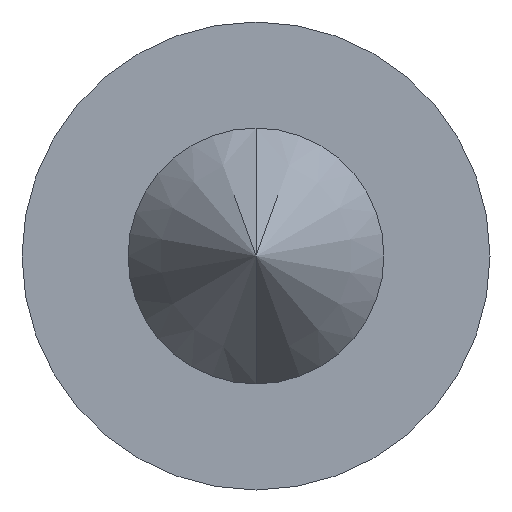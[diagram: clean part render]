
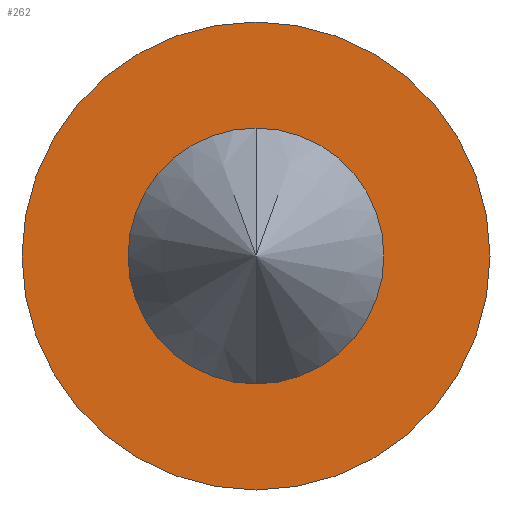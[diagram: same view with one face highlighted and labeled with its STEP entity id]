
A CAD part, front view. The second image highlights one B-rep face of the part: STEP entity #262.
In plain terms, the highlighted planar face has unit normal (0, -1, 0).
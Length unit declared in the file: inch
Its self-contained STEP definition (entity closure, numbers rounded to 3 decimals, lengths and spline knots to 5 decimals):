
#1 = VERTEX_POINT ( 'NONE', #88 ) ;
#2 = AXIS2_PLACEMENT_3D ( 'NONE', #331, #295, #24 ) ;
#7 = ORIENTED_EDGE ( 'NONE', *, *, #306, .T. ) ;
#9 = CARTESIAN_POINT ( 'NONE',  ( 0., -0.25084, 0. ) ) ;
#24 = DIRECTION ( 'NONE',  ( 0., 0., -1. ) ) ;
#31 = CIRCLE ( 'NONE', #2, 0.108 ) ;
#35 = ORIENTED_EDGE ( 'NONE', *, *, #81, .F. ) ;
#67 = FACE_OUTER_BOUND ( 'NONE', #315, .T. ) ;
#73 = DIRECTION ( 'NONE',  ( 0., 0., -1. ) ) ;
#76 = EDGE_CURVE ( 'NONE', #313, #230, #31, .T. ) ;
#81 = EDGE_CURVE ( 'NONE', #230, #313, #91, .T. ) ;
#85 = AXIS2_PLACEMENT_3D ( 'NONE', #336, #243, #164 ) ;
#88 = CARTESIAN_POINT ( 'NONE',  ( 0., -0.25084, -0.1975 ) ) ;
#91 = CIRCLE ( 'NONE', #185, 0.108 ) ;
#104 = CARTESIAN_POINT ( 'NONE',  ( 0., -0.25084, 0.108 ) ) ;
#106 = CARTESIAN_POINT ( 'NONE',  ( 0., -0.25084, -0.108 ) ) ;
#132 = DIRECTION ( 'NONE',  ( 0., -1., 0. ) ) ;
#134 = CIRCLE ( 'NONE', #85, 0.1975 ) ;
#148 = CARTESIAN_POINT ( 'NONE',  ( 0., -0.25084, 0. ) ) ;
#164 = DIRECTION ( 'NONE',  ( 0., 0., -1. ) ) ;
#169 = ORIENTED_EDGE ( 'NONE', *, *, #296, .T. ) ;
#171 = EDGE_LOOP ( 'NONE', ( #35, #338 ) ) ;
#181 = DIRECTION ( 'NONE',  ( 0., 0., -1. ) ) ;
#185 = AXIS2_PLACEMENT_3D ( 'NONE', #148, #387, #181 ) ;
#188 = DIRECTION ( 'NONE',  ( 0., -1., 0. ) ) ;
#230 = VERTEX_POINT ( 'NONE', #248 ) ;
#243 = DIRECTION ( 'NONE',  ( 0., -1., 0. ) ) ;
#248 = CARTESIAN_POINT ( 'NONE',  ( 0., -0.25084, -0.108 ) ) ;
#254 = CIRCLE ( 'NONE', #297, 0.1975 ) ;
#262 = ADVANCED_FACE ( 'NONE', ( #67, #368 ), #308, .T. ) ;
#290 = CARTESIAN_POINT ( 'NONE',  ( 0., -0.25084, 0.1975 ) ) ;
#295 = DIRECTION ( 'NONE',  ( 0., -1., 0. ) ) ;
#296 = EDGE_CURVE ( 'NONE', #1, #348, #134, .T. ) ;
#297 = AXIS2_PLACEMENT_3D ( 'NONE', #9, #188, #301 ) ;
#301 = DIRECTION ( 'NONE',  ( 0., 0., -1. ) ) ;
#306 = EDGE_CURVE ( 'NONE', #348, #1, #254, .T. ) ;
#308 = PLANE ( 'NONE',  #390 ) ;
#313 = VERTEX_POINT ( 'NONE', #104 ) ;
#315 = EDGE_LOOP ( 'NONE', ( #169, #7 ) ) ;
#331 = CARTESIAN_POINT ( 'NONE',  ( 0., -0.25084, 0. ) ) ;
#336 = CARTESIAN_POINT ( 'NONE',  ( 0., -0.25084, 0. ) ) ;
#338 = ORIENTED_EDGE ( 'NONE', *, *, #76, .F. ) ;
#348 = VERTEX_POINT ( 'NONE', #290 ) ;
#368 = FACE_BOUND ( 'NONE', #171, .T. ) ;
#387 = DIRECTION ( 'NONE',  ( 0., -1., 0. ) ) ;
#390 = AXIS2_PLACEMENT_3D ( 'NONE', #106, #132, #73 ) ;
